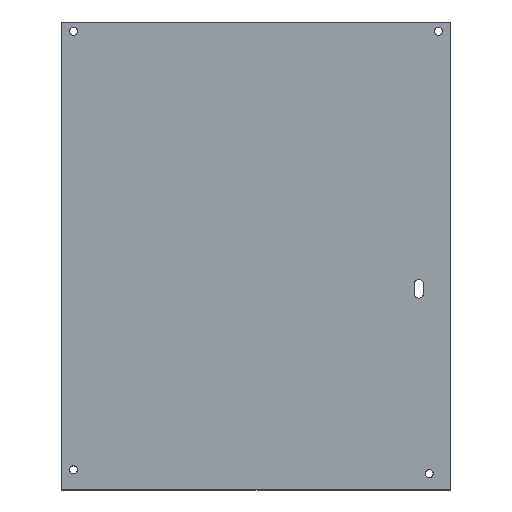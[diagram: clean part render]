
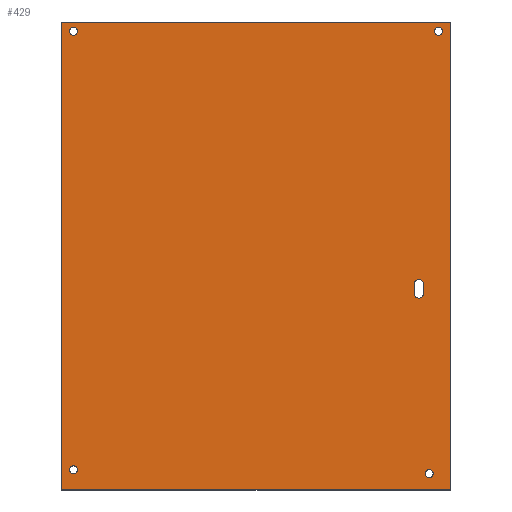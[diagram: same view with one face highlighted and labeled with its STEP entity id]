
A CAD part, top view. The second image highlights one B-rep face of the part: STEP entity #429.
In plain terms, the highlighted planar face has unit normal (0, 0, 1).
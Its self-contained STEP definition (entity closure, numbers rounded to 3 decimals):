
#92=DIRECTION('',(0.,-1.,0.));
#93=VECTOR('',#92,100.);
#94=CARTESIAN_POINT('',(-41.5,50.,0.5));
#95=LINE('',#94,#93);
#96=DIRECTION('',(-1.,0.,0.));
#97=VECTOR('',#96,83.);
#98=CARTESIAN_POINT('',(41.5,50.,0.5));
#99=LINE('',#98,#97);
#100=DIRECTION('',(0.,1.,0.));
#101=VECTOR('',#100,100.);
#102=CARTESIAN_POINT('',(41.5,-50.,0.5));
#103=LINE('',#102,#101);
#104=DIRECTION('',(1.,0.,0.));
#105=VECTOR('',#104,83.);
#106=CARTESIAN_POINT('',(-41.5,-50.,0.5));
#107=LINE('',#106,#105);
#108=CARTESIAN_POINT('',(-39.,-45.7,0.5));
#109=DIRECTION('',(0.,0.,-1.));
#110=DIRECTION('',(-1.,0.,0.));
#111=AXIS2_PLACEMENT_3D('',#108,#109,#110);
#113=CARTESIAN_POINT('',(-39.,-45.7,0.5));
#114=DIRECTION('',(0.,0.,-1.));
#115=DIRECTION('',(1.,0.,0.));
#116=AXIS2_PLACEMENT_3D('',#113,#114,#115);
#118=CARTESIAN_POINT('',(-39.,48.,0.5));
#119=DIRECTION('',(0.,0.,-1.));
#120=DIRECTION('',(-1.,0.,0.));
#121=AXIS2_PLACEMENT_3D('',#118,#119,#120);
#123=CARTESIAN_POINT('',(-39.,48.,0.5));
#124=DIRECTION('',(0.,0.,-1.));
#125=DIRECTION('',(1.,0.,0.));
#126=AXIS2_PLACEMENT_3D('',#123,#124,#125);
#128=CARTESIAN_POINT('',(39.,48.,0.5));
#129=DIRECTION('',(0.,0.,-1.));
#130=DIRECTION('',(-1.,0.,0.));
#131=AXIS2_PLACEMENT_3D('',#128,#129,#130);
#133=CARTESIAN_POINT('',(39.,48.,0.5));
#134=DIRECTION('',(0.,0.,-1.));
#135=DIRECTION('',(1.,0.,0.));
#136=AXIS2_PLACEMENT_3D('',#133,#134,#135);
#138=CARTESIAN_POINT('',(34.8,-6.,0.5));
#139=DIRECTION('',(0.,0.,1.));
#140=DIRECTION('',(1.,0.,0.));
#141=AXIS2_PLACEMENT_3D('',#138,#139,#140);
#143=DIRECTION('',(0.,-1.,0.));
#144=VECTOR('',#143,2.);
#145=CARTESIAN_POINT('',(33.8,-6.,0.5));
#146=LINE('',#145,#144);
#147=CARTESIAN_POINT('',(34.8,-8.,0.5));
#148=DIRECTION('',(0.,0.,1.));
#149=DIRECTION('',(-1.,0.,0.));
#150=AXIS2_PLACEMENT_3D('',#147,#148,#149);
#152=DIRECTION('',(0.,1.,0.));
#153=VECTOR('',#152,2.);
#154=CARTESIAN_POINT('',(35.8,-8.,0.5));
#155=LINE('',#154,#153);
#156=CARTESIAN_POINT('',(37.,-46.5,0.5));
#157=DIRECTION('',(0.,0.,-1.));
#158=DIRECTION('',(-1.,0.,0.));
#159=AXIS2_PLACEMENT_3D('',#156,#157,#158);
#161=CARTESIAN_POINT('',(37.,-46.5,0.5));
#162=DIRECTION('',(0.,0.,-1.));
#163=DIRECTION('',(1.,0.,0.));
#164=AXIS2_PLACEMENT_3D('',#161,#162,#163);
#222=CARTESIAN_POINT('',(-41.5,50.,0.5));
#223=CARTESIAN_POINT('',(-41.5,-50.,0.5));
#224=VERTEX_POINT('',#222);
#225=VERTEX_POINT('',#223);
#226=CARTESIAN_POINT('',(41.5,-50.,0.5));
#227=VERTEX_POINT('',#226);
#228=CARTESIAN_POINT('',(41.5,50.,0.5));
#229=VERTEX_POINT('',#228);
#234=CARTESIAN_POINT('',(-39.85,-45.7,0.5));
#235=CARTESIAN_POINT('',(-38.15,-45.7,0.5));
#236=VERTEX_POINT('',#234);
#237=VERTEX_POINT('',#235);
#242=CARTESIAN_POINT('',(-39.85,48.,0.5));
#243=CARTESIAN_POINT('',(-38.15,48.,0.5));
#244=VERTEX_POINT('',#242);
#245=VERTEX_POINT('',#243);
#250=CARTESIAN_POINT('',(38.15,48.,0.5));
#251=CARTESIAN_POINT('',(39.85,48.,0.5));
#252=VERTEX_POINT('',#250);
#253=VERTEX_POINT('',#251);
#262=CARTESIAN_POINT('',(35.8,-6.,0.5));
#263=CARTESIAN_POINT('',(33.8,-6.,0.5));
#264=VERTEX_POINT('',#262);
#265=VERTEX_POINT('',#263);
#266=CARTESIAN_POINT('',(33.8,-8.,0.5));
#267=VERTEX_POINT('',#266);
#268=CARTESIAN_POINT('',(35.8,-8.,0.5));
#269=VERTEX_POINT('',#268);
#274=CARTESIAN_POINT('',(36.15,-46.5,0.5));
#275=CARTESIAN_POINT('',(37.85,-46.5,0.5));
#276=VERTEX_POINT('',#274);
#277=VERTEX_POINT('',#275);
#384=CARTESIAN_POINT('',(0.,0.,0.5));
#385=DIRECTION('',(0.,0.,1.));
#386=DIRECTION('',(1.,0.,0.));
#387=AXIS2_PLACEMENT_3D('',#384,#385,#386);
#388=PLANE('',#387);
#389=ORIENTED_EDGE('',*,*,#336,.F.);
#390=ORIENTED_EDGE('',*,*,#351,.F.);
#391=ORIENTED_EDGE('',*,*,#365,.F.);
#392=ORIENTED_EDGE('',*,*,#378,.F.);
#393=EDGE_LOOP('',(#389,#390,#391,#392));
#394=FACE_OUTER_BOUND('',#393,.F.);
#396=ORIENTED_EDGE('',*,*,#395,.F.);
#398=ORIENTED_EDGE('',*,*,#397,.F.);
#399=EDGE_LOOP('',(#396,#398));
#400=FACE_BOUND('',#399,.F.);
#402=ORIENTED_EDGE('',*,*,#401,.F.);
#404=ORIENTED_EDGE('',*,*,#403,.F.);
#405=EDGE_LOOP('',(#402,#404));
#406=FACE_BOUND('',#405,.F.);
#408=ORIENTED_EDGE('',*,*,#407,.F.);
#410=ORIENTED_EDGE('',*,*,#409,.F.);
#411=EDGE_LOOP('',(#408,#410));
#412=FACE_BOUND('',#411,.F.);
#414=ORIENTED_EDGE('',*,*,#413,.T.);
#416=ORIENTED_EDGE('',*,*,#415,.T.);
#418=ORIENTED_EDGE('',*,*,#417,.T.);
#420=ORIENTED_EDGE('',*,*,#419,.T.);
#421=EDGE_LOOP('',(#414,#416,#418,#420));
#422=FACE_BOUND('',#421,.F.);
#424=ORIENTED_EDGE('',*,*,#423,.F.);
#426=ORIENTED_EDGE('',*,*,#425,.F.);
#427=EDGE_LOOP('',(#424,#426));
#428=FACE_BOUND('',#427,.F.);
#429=ADVANCED_FACE('',(#394,#400,#406,#412,#422,#428),#388,.T.);
#112=CIRCLE('',#111,0.85);
#117=CIRCLE('',#116,0.85);
#122=CIRCLE('',#121,0.85);
#127=CIRCLE('',#126,0.85);
#132=CIRCLE('',#131,0.85);
#137=CIRCLE('',#136,0.85);
#142=CIRCLE('',#141,1.);
#151=CIRCLE('',#150,1.);
#160=CIRCLE('',#159,0.85);
#165=CIRCLE('',#164,0.85);
#336=EDGE_CURVE('',#224,#225,#95,.T.);
#351=EDGE_CURVE('',#229,#224,#99,.T.);
#365=EDGE_CURVE('',#227,#229,#103,.T.);
#378=EDGE_CURVE('',#225,#227,#107,.T.);
#395=EDGE_CURVE('',#236,#237,#112,.T.);
#397=EDGE_CURVE('',#237,#236,#117,.T.);
#401=EDGE_CURVE('',#244,#245,#122,.T.);
#403=EDGE_CURVE('',#245,#244,#127,.T.);
#407=EDGE_CURVE('',#252,#253,#132,.T.);
#409=EDGE_CURVE('',#253,#252,#137,.T.);
#413=EDGE_CURVE('',#264,#265,#142,.T.);
#415=EDGE_CURVE('',#265,#267,#146,.T.);
#417=EDGE_CURVE('',#267,#269,#151,.T.);
#419=EDGE_CURVE('',#269,#264,#155,.T.);
#423=EDGE_CURVE('',#276,#277,#160,.T.);
#425=EDGE_CURVE('',#277,#276,#165,.T.);
